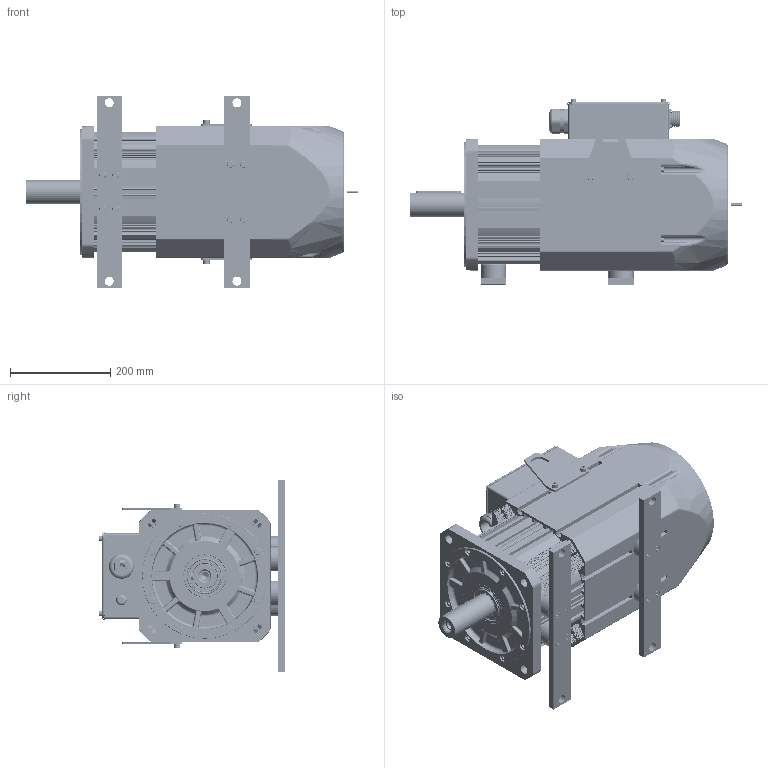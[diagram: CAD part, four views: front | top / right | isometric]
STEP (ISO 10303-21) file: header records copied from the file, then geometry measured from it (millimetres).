
FILE_DESCRIPTION((''),'2;1');
FILE_NAME('IMS20B-26M74D20C-4-R7F-A_ASM','2025-08-25T10:09:59',('0108698'),(''),'CREO PARAMETRIC BY PTC INC, 2019080','CREO PARAMETRIC BY PTC INC, 2019080','');
FILE_SCHEMA(('CONFIG_CONTROL_DESIGN'));
Products named in the file (72): 263T360_A; 631000; 80100320_AF0; 2630002_ASM; 2630003; 2630004; M6X160001; 50058-00152_AF0; 2630001_ASM; 263559_A; 2630005_ASM; 80100323_AF0; 263000_ASM; 50057-00008; 50036-00052; 50060-00059; 2630007_ASM; 2630009; 15000; 2630008_ASM; 50034-00098; _0001; 0001; 50051-00002; PDLD_4X12; 2630011; 00; M8X3000; 800; 0003; 0004; L990001; 2630010_ASM; 0005; ISO7045-M4X6-4_8; 0006; ISO7045-M4X8-4_8; WXJXDZ_40200-01002; 0007; _0002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
Assembly tree (142 placements, depth 4):
  IMS20B-26M74D20C-4-R7F-A_ASM
    2630001_ASM
      263T360_A
      631000
      2630002_ASM
        80100320_AF0
      2630003
      2630004
      M6X160001  x6
      50058-00152_AF0
    2630005_ASM
      263559_A
    263000_ASM
      80100323_AF0
    2630007_ASM
      50057-00008
      50036-00052
      50060-00059  x4
    2630008_ASM
      2630009
      15000
    50034-00098
    12116-00061_ASM
      _0001
      0001
      50051-00002
      PDLD_4X12  x4
      2630010_ASM
        2630011
        00  x3
        M8X3000  x6
        800  x6
        800  x6
        0003  x4
        0004
        L990001
      0005
      ISO7045-M4X6-4_8  x2
      0006
      ISO7045-M4X8-4_8
      WXJXDZ_40200-01002  x4
      0007
      _0002
      50060-00134  x4
      0008
      PG11
      PG36
    50034-00031  x2
    50034-00026  x2
    50058-00151_AF0
    50060-00071  x4
    50058-00152_AF1
    50060-00135  x4
    50058-00150
    50066-00059
    50060-00076  x4
    12118-00004_ASM
      80310919
      50034-00012
      80310916  x2
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Bounding box: 662.5 x 371 x 384 mm (x, y, z)
Volume: 13432364.1 mm3; surface area: 3181829.4 mm2
Topology: 148 solids, 260 shells, 7714 faces, 20132 edges, 13031 vertices
Faces by surface type: plane 3573, cylinder 2778, cone 505, bspline 481, torus 329, revolution 24, sphere 24
Entity records: 228596 total; most frequent: CARTESIAN_POINT 70693, DIRECTION 33163, ORIENTED_EDGE 32704, EDGE_CURVE 16484, AXIS2_PLACEMENT_3D 11953, VERTEX_POINT 10717, VECTOR 9233, LINE 9233
